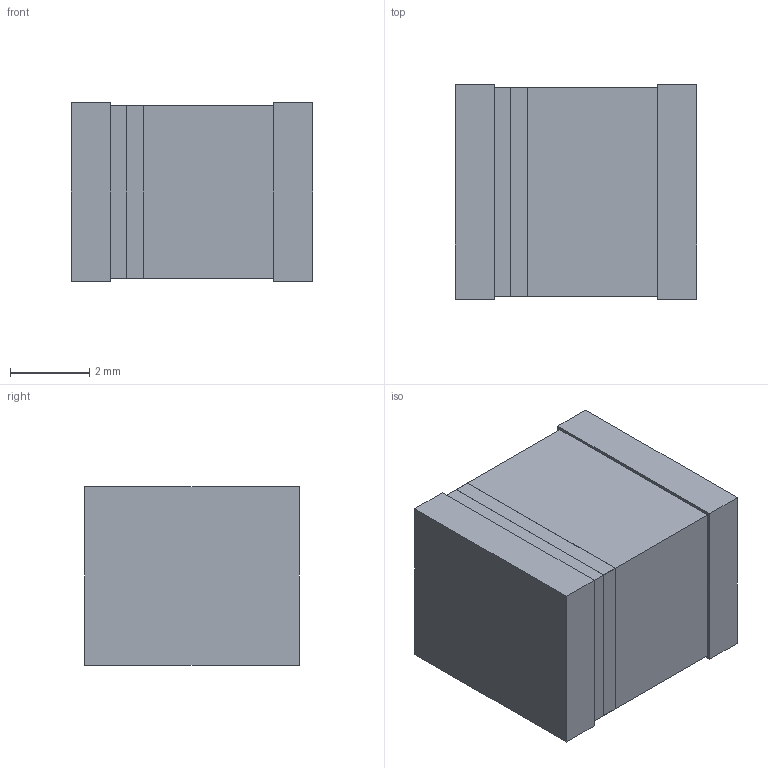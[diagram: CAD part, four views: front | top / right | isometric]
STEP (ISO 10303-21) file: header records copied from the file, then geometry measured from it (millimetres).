
FILE_DESCRIPTION(('STEP AP214'),'1');
FILE_NAME('CAP_2220Y5000105KXTWS2_KNO','2021-08-30T00:25:20',(''),(''),'','','');
FILE_SCHEMA(('AUTOMOTIVE_DESIGN'));
Length unit declared in the file: millimetre
Products named in the file (1): product
Bounding box: 6.1 x 5.41 x 4.5 mm (x, y, z)
Volume: 142.1 mm3; surface area: 277.1 mm2
Topology: 4 solids, 4 shells, 30 faces, 64 edges, 40 vertices
Faces by surface type: plane 30
Entity records: 799 total; most frequent: ORIENTED_EDGE 128, DIRECTION 126, CARTESIAN_POINT 71, EDGE_CURVE 64, LINE 64, VECTOR 64, VERTEX_POINT 40, AXIS2_PLACEMENT_3D 31
